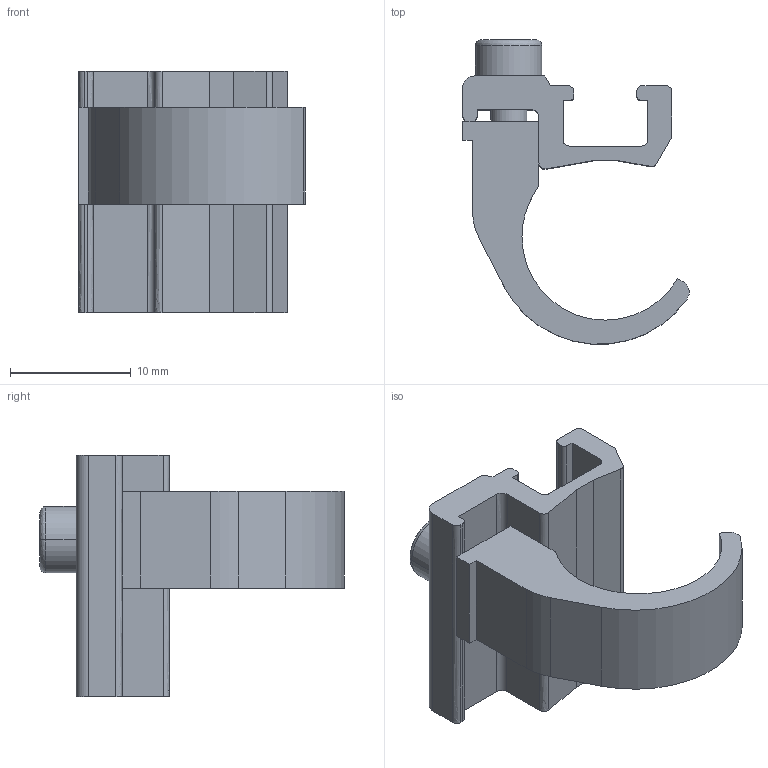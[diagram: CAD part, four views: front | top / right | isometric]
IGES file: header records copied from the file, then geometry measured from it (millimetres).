
Start section:  PTC IGES file: 1827020297\1827020297.iges
Global section: file name: 1827020297\1827020297.iges; native system: Creo Parametric by PTC Inc.; preprocessor: 2023092; author: GND7HC; organization: Unknown; date: 20240417.172942; units: millimetre
Bounding box: 18.74 x 25.18 x 20 mm (x, y, z)
Surface area: 2082.8 mm2 (no closed solid volume)
Topology: 0 solids, 0 shells, 69 faces, 394 edges, 394 vertices
Faces by surface type: bspline 45, revolution 24
